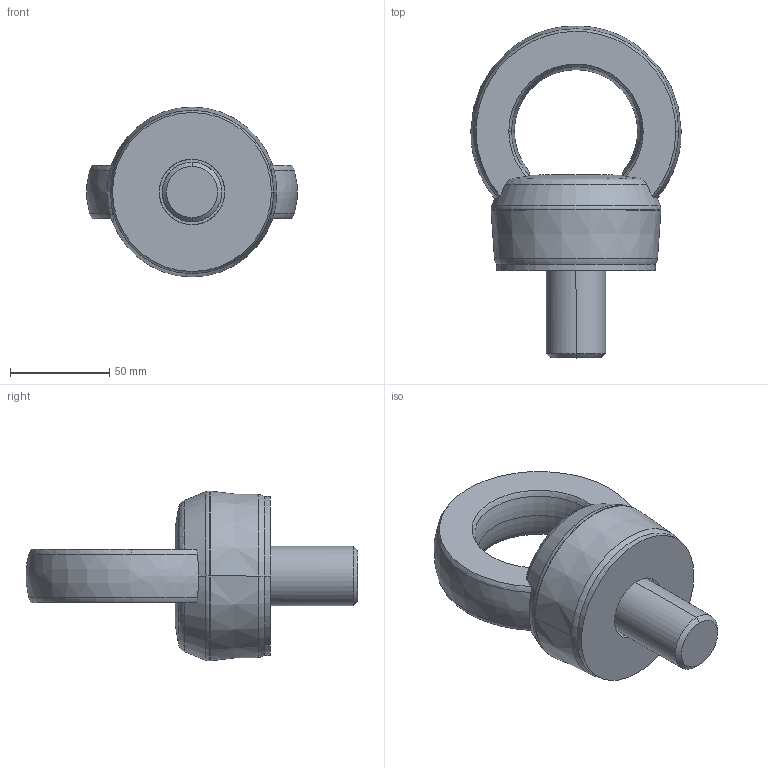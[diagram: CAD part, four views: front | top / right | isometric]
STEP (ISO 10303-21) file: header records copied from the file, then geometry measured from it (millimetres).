
FILE_DESCRIPTION(('CATIA V5 STEP Exchange'),'2;1');
FILE_NAME('C:\Users\Raffaele\Desktop\3D X SITO CF\GOLFARI\817XC\RCM_C817XC30\STEP-2.03\C817X30.stp','2019-07-01T07:24:39+00:00',('none'),('none'),'CATIA Version 5 Release 20 GA (IN-10)','CATIA V5 STEP AP203','none');
FILE_SCHEMA(('CONFIG_CONTROL_DESIGN'));
Length unit declared in the file: millimetre
Products named in the file (1): _C817X30
Bounding box: 105.65 x 166.94 x 85.45 mm (x, y, z)
Volume: 370289.9 mm3; surface area: 53398.6 mm2
Topology: 1 solids, 1 shells, 65 faces, 184 edges, 124 vertices
Faces by surface type: torus 28, plane 15, cylinder 12, cone 8, bspline 2
Entity records: 2529 total; most frequent: CARTESIAN_POINT 936, ORIENTED_EDGE 368, DIRECTION 240, EDGE_CURVE 184, AXIS2_PLACEMENT_3D 148, VERTEX_POINT 124, CIRCLE 90, EDGE_LOOP 70
